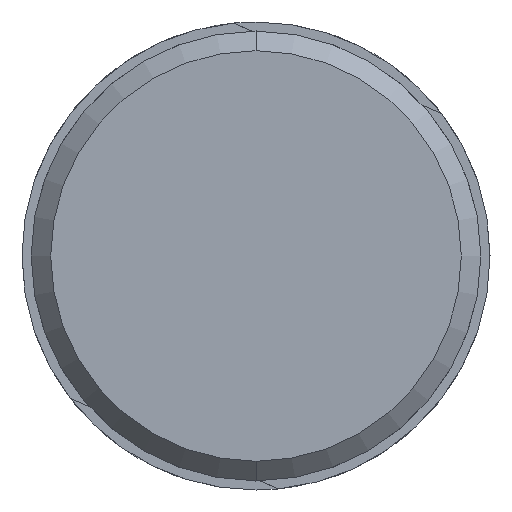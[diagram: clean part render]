
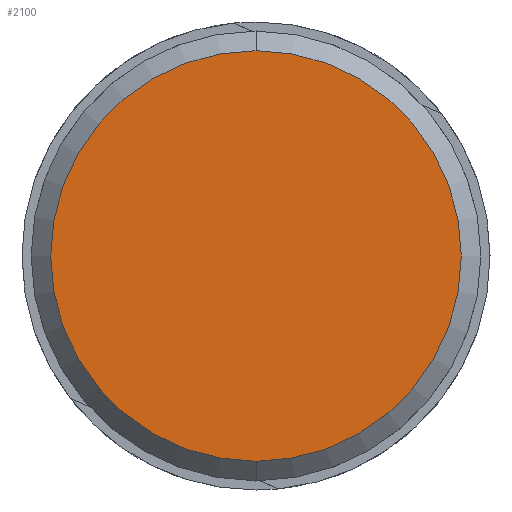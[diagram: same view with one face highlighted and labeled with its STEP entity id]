
A CAD part, front view. The second image highlights one B-rep face of the part: STEP entity #2100.
In plain terms, the highlighted planar face has unit normal (0, -1, 0).
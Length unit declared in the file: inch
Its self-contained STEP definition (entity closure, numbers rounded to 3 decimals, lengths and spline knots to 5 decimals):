
#65 = CARTESIAN_POINT ( 'NONE',  ( -1.73629, 0.32406, 0. ) ) ;
#91 = DIRECTION ( 'NONE',  ( 0., 0., 1. ) ) ;
#111 = DIRECTION ( 'NONE',  ( 0., 1., 0. ) ) ;
#356 = VERTEX_POINT ( 'NONE', #2252 ) ;
#415 = EDGE_CURVE ( 'NONE', #1209, #356, #1946, .T. ) ;
#488 = AXIS2_PLACEMENT_3D ( 'NONE', #539, #538, #535 ) ;
#535 = DIRECTION ( 'NONE',  ( 0., 0., 1. ) ) ;
#538 = DIRECTION ( 'NONE',  ( 0., 1., 0. ) ) ;
#539 = CARTESIAN_POINT ( 'NONE',  ( -1.73629, 0.32406, 0. ) ) ;
#658 = CARTESIAN_POINT ( 'NONE',  ( -1.73629, 0.32406, -0.658 ) ) ;
#789 = AXIS2_PLACEMENT_3D ( 'NONE', #65, #111, #91 ) ;
#1096 = ORIENTED_EDGE ( 'NONE', *, *, #415, .F. ) ;
#1135 = EDGE_LOOP ( 'NONE', ( #1144, #1096 ) ) ;
#1144 = ORIENTED_EDGE ( 'NONE', *, *, #1749, .F. ) ;
#1209 = VERTEX_POINT ( 'NONE', #658 ) ;
#1325 = CIRCLE ( 'NONE', #488, 0.658 ) ;
#1682 = FACE_OUTER_BOUND ( 'NONE', #1135, .T. ) ;
#1749 = EDGE_CURVE ( 'NONE', #356, #1209, #1325, .T. ) ;
#1857 = DIRECTION ( 'NONE',  ( 0., 0., -1. ) ) ;
#1871 = PLANE ( 'NONE',  #2128 ) ;
#1889 = DIRECTION ( 'NONE',  ( 0., -1., 0. ) ) ;
#1919 = CARTESIAN_POINT ( 'NONE',  ( -1.21179, 0.32406, 0. ) ) ;
#1946 = CIRCLE ( 'NONE', #789, 0.658 ) ;
#2100 = ADVANCED_FACE ( 'NONE', ( #1682 ), #1871, .T. ) ;
#2128 = AXIS2_PLACEMENT_3D ( 'NONE', #1919, #1889, #1857 ) ;
#2252 = CARTESIAN_POINT ( 'NONE',  ( -1.73629, 0.32406, 0.658 ) ) ;
